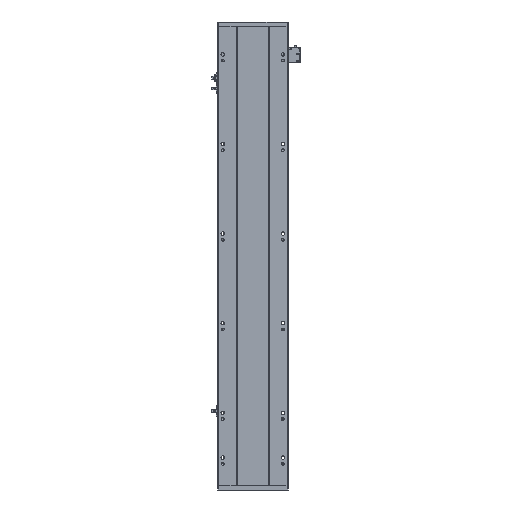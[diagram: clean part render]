
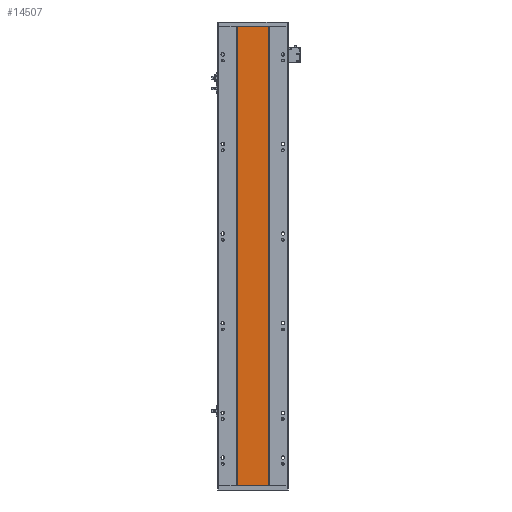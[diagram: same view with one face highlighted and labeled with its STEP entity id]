
A CAD part, front view. The second image highlights one B-rep face of the part: STEP entity #14507.
In plain terms, the highlighted planar face has unit normal (0, -1, 0).
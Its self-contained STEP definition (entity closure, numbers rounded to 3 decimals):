
#206 = ORIENTED_EDGE ( 'NONE', *, *, #31859, .F. ) ;
#355 = ORIENTED_EDGE ( 'NONE', *, *, #22907, .F. ) ;
#587 = CARTESIAN_POINT ( 'NONE',  ( 129.288, 16.9, 1108. ) ) ;
#863 = AXIS2_PLACEMENT_3D ( 'NONE', #20757, #8089, #13365 ) ;
#1600 = CARTESIAN_POINT ( 'NONE',  ( 129.288, 16.9, 1108. ) ) ;
#1871 = CARTESIAN_POINT ( 'NONE',  ( 129.288, 16.9, 0. ) ) ;
#3975 = VECTOR ( 'NONE', #20194, 1000. ) ;
#3984 = ORIENTED_EDGE ( 'NONE', *, *, #31439, .T. ) ;
#4145 = VECTOR ( 'NONE', #32476, 1000. ) ;
#5303 = DIRECTION ( 'NONE',  ( 0., 0., -1. ) ) ;
#6198 = CARTESIAN_POINT ( 'NONE',  ( 205.288, 16.9, 1108. ) ) ;
#6383 = EDGE_CURVE ( 'NONE', #25658, #26495, #22227, .T. ) ;
#6914 = DIRECTION ( 'NONE',  ( 1., 0., 0. ) ) ;
#7322 = LINE ( 'NONE', #16849, #4145 ) ;
#7707 = VECTOR ( 'NONE', #5303, 1000. ) ;
#8089 = DIRECTION ( 'NONE',  ( 0., 1., 0. ) ) ;
#8713 = LINE ( 'NONE', #20409, #3975 ) ;
#9572 = ORIENTED_EDGE ( 'NONE', *, *, #6383, .T. ) ;
#10939 = EDGE_LOOP ( 'NONE', ( #9572, #206, #355, #3984 ) ) ;
#12206 = VERTEX_POINT ( 'NONE', #6198 ) ;
#13365 = DIRECTION ( 'NONE',  ( -1., 0., 0. ) ) ;
#14507 = ADVANCED_FACE ( 'NONE', ( #17383 ), #26168, .F. ) ;
#16849 = CARTESIAN_POINT ( 'NONE',  ( 205.288, 16.9, 1108. ) ) ;
#17383 = FACE_OUTER_BOUND ( 'NONE', #10939, .T. ) ;
#19372 = CARTESIAN_POINT ( 'NONE',  ( 205.288, 16.9, 0. ) ) ;
#20194 = DIRECTION ( 'NONE',  ( 1., 0., 0. ) ) ;
#20273 = VECTOR ( 'NONE', #6914, 1000. ) ;
#20409 = CARTESIAN_POINT ( 'NONE',  ( 129.288, 16.9, 1108. ) ) ;
#20757 = CARTESIAN_POINT ( 'NONE',  ( 205.288, 16.9, 1108. ) ) ;
#22227 = LINE ( 'NONE', #19372, #20273 ) ;
#22232 = VERTEX_POINT ( 'NONE', #1600 ) ;
#22684 = LINE ( 'NONE', #587, #7707 ) ;
#22907 = EDGE_CURVE ( 'NONE', #22232, #12206, #8713, .T. ) ;
#23155 = CARTESIAN_POINT ( 'NONE',  ( 205.288, 16.9, 0. ) ) ;
#25658 = VERTEX_POINT ( 'NONE', #1871 ) ;
#26168 = PLANE ( 'NONE',  #863 ) ;
#26495 = VERTEX_POINT ( 'NONE', #23155 ) ;
#31439 = EDGE_CURVE ( 'NONE', #22232, #25658, #22684, .T. ) ;
#31859 = EDGE_CURVE ( 'NONE', #12206, #26495, #7322, .T. ) ;
#32476 = DIRECTION ( 'NONE',  ( 0., 0., -1. ) ) ;
